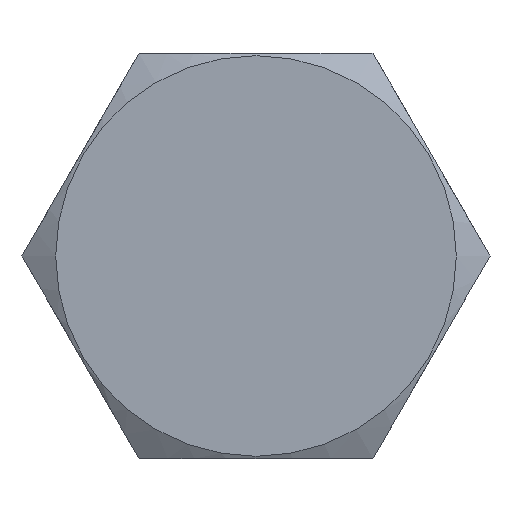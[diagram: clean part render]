
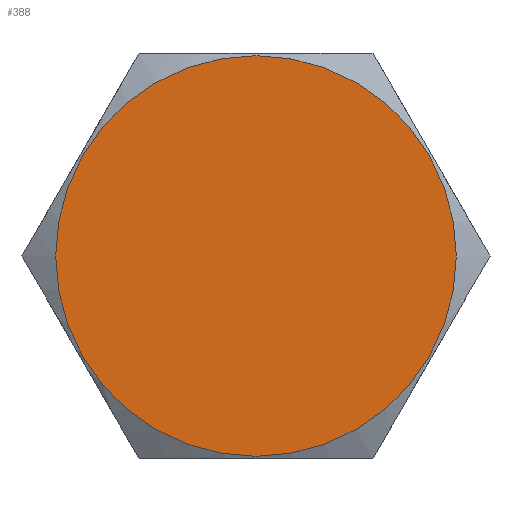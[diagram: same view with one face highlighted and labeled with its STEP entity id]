
A CAD part, front view. The second image highlights one B-rep face of the part: STEP entity #388.
In plain terms, the highlighted planar face has unit normal (0, -1, 0).
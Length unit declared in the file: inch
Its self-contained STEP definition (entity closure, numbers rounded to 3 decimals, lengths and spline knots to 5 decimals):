
#57=PLANE('',#444);
#112=FACE_OUTER_BOUND('',#135,.T.);
#135=EDGE_LOOP('',(#357));
#154=CIRCLE('',#443,0.74125);
#193=VERTEX_POINT('',#753);
#249=EDGE_CURVE('',#193,#193,#154,.T.);
#357=ORIENTED_EDGE('',*,*,#249,.F.);
#388=ADVANCED_FACE('',(#112),#57,.T.);
#443=AXIS2_PLACEMENT_3D('',#754,#540,#541);
#444=AXIS2_PLACEMENT_3D('',#756,#543,#544);
#540=DIRECTION('center_axis',(0.,1.,0.));
#541=DIRECTION('ref_axis',(0.,0.,1.));
#543=DIRECTION('center_axis',(0.,-1.,0.));
#544=DIRECTION('ref_axis',(0.,0.,-1.));
#753=CARTESIAN_POINT('',(0.,0.,-0.74125));
#754=CARTESIAN_POINT('Origin',(0.,0.,0.));
#756=CARTESIAN_POINT('Origin',(0.,0.,0.));
